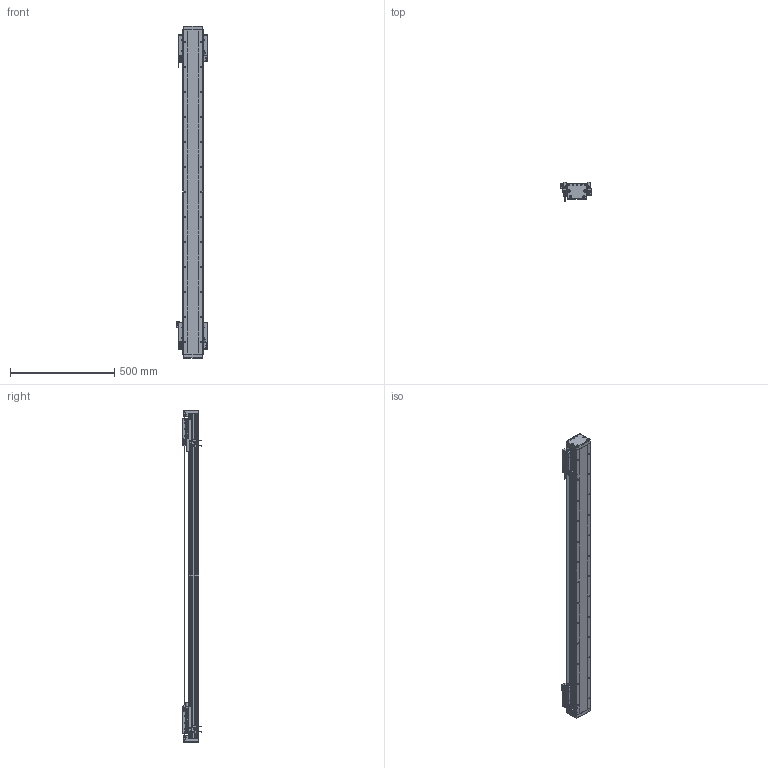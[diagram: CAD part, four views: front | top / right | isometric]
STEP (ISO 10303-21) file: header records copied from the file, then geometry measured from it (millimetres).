
FILE_DESCRIPTION (( 'STEP AP203' ), '1' );
FILE_NAME ('DA-B95-2-B15-T1220-C010-0.2 直线电机.STEP', '2023-05-06T06:29:58', ( '微软用户' ), ( '微软中国' ), 'SwSTEP 2.0', 'SolidWorks 2019', '' );
FILE_SCHEMA (( 'CONFIG_CONTROL_DESIGN' ));
Length unit declared in the file: millimetre
Products named in the file (34): 复件 DKW-HXJ-JY-00 缓冲橡胶^DA-A95-B15-T-C010-0.2-N 直线电机; 葩璃 PM-Y45^DA-A95-B15-T-C010-0.2-N 眻盄萇儂; 复件 复件 18252-0001-002-00 钢带垫块^DA-A95-B15-T-C010-0.2-N 直线电机; 葩璃 BKM015-W060-C1-TP-DA-0.2^DA-A95-B15-T-C010-0.2-N 眻盄萇儂; 葩璃 BKMA01-W060-TRL^DA-A95-B15-T-C010-0.2-N 眻盄萇儂; IU-BU95-L 菁釱絳寢; 复件 DA95-DB-00  挡板^66245-BU95-V 滚珠滑台; 66245-BU95-V 幗紩賑怢; IU-BU95-L-00 菁釱_L1560; 葩璃 DA95-B15-DP-A-00 菜えA^66245-BU95-V 幗紩賑怢; LMDK-2-R001-V5-L02-C1-F00，0.2M 读数头^DA-A95-B15-T-C010-0.2-N 直线电机_DMA-010-0.2; 复件 DKW-GYP-ZJ-00 中间光电感应片^DA-A95-B15-T-C010-0.2-N 直线电机; 复件 DA95-B15 钢带盖板^DA-A95-B15-T-C010-0.2-N 直线电机; 复件 DKW-KGZ-ZJ-00 中间光电开关支架^DA-A95-B15-T-C010-0.2-N 直线电机; 葩璃 DA95-GT-T-00^IU-BU95-L 菁釱絳寢_DA95; 复件 复件 18252-0001-004-00 钢带端盖^DA-A95-B15-T-C010-0.2-N 直线电机; 复件 六角薄螺母 M3^DA-A95-B15-T-C010-0.2-N 直线电机_GB_FASTENER_NUT_STNAB M3-C; B15 XD-U-02L ｴﾅﾕ､ｳﾟ^DA-A95-B15-T-C010-0.2-N ﾖｱﾏﾟｵ扈銈XD-U-02L; 复件 DA95-B15-YB-A-00 压板A^66245-BU95-V 滚珠滑台; 复件 DA95-B15-YB-B-00 压板B^66245-BU95-V 滚珠滑台; 复件 66245-BU95-HT-V-01 滑动台板^66245-BU95-V-00 一体化滑动台板; 复件 DA95-HK-GT-00 滑块钢轨^66245-BU95-V-00 一体化滑动台板; 复件 DA95-MFP-01 密封片^66245-BU95-V 滚珠滑台; DA95-HXJ-00 缓冲橡胶^DA-A95-B15-T-C010-0.2-N 直线电机; 66245-BU95-V-00 珨极趙賑雄怢啣; 复件 纯铜油杯 6x6mm^66245-BU95-V 滚珠滑台; PM-T45 光电开关^DA-A95-B15-T-C010-0.2-N 直线电机; 葩璃 DA95-B15-DP--B-00 菜えB^66245-BU95-V 幗紩賑怢; 复件 复件 18252-0001-003-00 钢带拉块^DA-A95-B15-T-C010-0.2-N 直线电机; DA-A95-GYP-00 光电感应片^DA-A95-B15-T-C010-0.2-N 直线电机; DA-B95-2-B15-T1220-C010-0.2 眻盄萇儂; 复件 DA95-DK-00 挡块^66245-BU95-V 滚珠滑台
Assembly tree (80 placements, depth 4):
  DA-B95-2-B15-T1220-C010-0.2 眻盄萇儂
    IU-BU95-L 菁釱絳寢
      IU-BU95-L-00 菁釱_L1560
      葩璃 DA95-GT-T-00^IU-BU95-L 菁釱絳寢_DA95  x2
    66245-BU95-V 幗紩賑怢
      66245-BU95-V-00 珨极趙賑雄怢啣
        复件 66245-BU95-HT-V-01 滑动台板^66245-BU95-V-00 一体化滑动台板
        复件 DA95-HK-GT-00 滑块钢轨^66245-BU95-V-00 一体化滑动台板  x2
      葩璃 DA95-B15-DP-A-00 菜えA^66245-BU95-V 幗紩賑怢
      复件 DA95-B15-YB-A-00 压板A^66245-BU95-V 滚珠滑台
      复件 DA95-B15-YB-B-00 压板B^66245-BU95-V 滚珠滑台
      复件 DA95-DB-00  挡板^66245-BU95-V 滚珠滑台  x4
      复件 DA95-DK-00 挡块^66245-BU95-V 滚珠滑台  x2
      复件 DA95-MFP-01 密封片^66245-BU95-V 滚珠滑台  x4
      复件 纯铜油杯 6x6mm^66245-BU95-V 滚珠滑台  x2
      葩璃 DA95-B15-DP--B-00 菜えB^66245-BU95-V 幗紩賑怢
    66245-BU95-V 幗紩賑怢
      66245-BU95-V-00 珨极趙賑雄怢啣
        复件 66245-BU95-HT-V-01 滑动台板^66245-BU95-V-00 一体化滑动台板
        复件 DA95-HK-GT-00 滑块钢轨^66245-BU95-V-00 一体化滑动台板  x2
      葩璃 DA95-B15-DP-A-00 菜えA^66245-BU95-V 幗紩賑怢
      复件 DA95-B15-YB-A-00 压板A^66245-BU95-V 滚珠滑台
      复件 DA95-B15-YB-B-00 压板B^66245-BU95-V 滚珠滑台
      复件 DA95-DB-00  挡板^66245-BU95-V 滚珠滑台  x4
      复件 DA95-DK-00 挡块^66245-BU95-V 滚珠滑台  x2
      复件 DA95-MFP-01 密封片^66245-BU95-V 滚珠滑台  x4
      复件 纯铜油杯 6x6mm^66245-BU95-V 滚珠滑台  x2
      葩璃 DA95-B15-DP--B-00 菜えB^66245-BU95-V 幗紩賑怢
    DA-A95-GYP-00 光电感应片^DA-A95-B15-T-C010-0.2-N 直线电机  x2
    LMDK-2-R001-V5-L02-C1-F00，0.2M 读数头^DA-A95-B15-T-C010-0.2-N 直线电机_DMA-010-0.2  x2
    复件 DKW-KGZ-ZJ-00 中间光电开关支架^DA-A95-B15-T-C010-0.2-N 直线电机
    葩璃 PM-Y45^DA-A95-B15-T-C010-0.2-N 眻盄萇儂
    复件 DKW-GYP-ZJ-00 中间光电感应片^DA-A95-B15-T-C010-0.2-N 直线电机
    葩璃 BKM015-W060-C1-TP-DA-0.2^DA-A95-B15-T-C010-0.2-N 眻盄萇儂  x2
    复件 DKW-HXJ-JY-00 缓冲橡胶^DA-A95-B15-T-C010-0.2-N 直线电机  x2
    PM-T45 光电开关^DA-A95-B15-T-C010-0.2-N 直线电机  x4
    B15 XD-U-02L ｴﾅﾕ､ｳﾟ^DA-A95-B15-T-C010-0.2-N ﾖｱﾏﾟｵ扈銈XD-U-02L
    复件 复件 18252-0001-003-00 钢带拉块^DA-A95-B15-T-C010-0.2-N 直线电机  x2
    复件 复件 18252-0001-002-00 钢带垫块^DA-A95-B15-T-C010-0.2-N 直线电机  x2
    复件 复件 18252-0001-004-00 钢带端盖^DA-A95-B15-T-C010-0.2-N 直线电机  x2
    复件 DA95-B15 钢带盖板^DA-A95-B15-T-C010-0.2-N 直线电机
    DA95-HXJ-00 缓冲橡胶^DA-A95-B15-T-C010-0.2-N 直线电机  x4
    葩璃 BKMA01-W060-TRL^DA-A95-B15-T-C010-0.2-N 眻盄萇儂
    复件 六角薄螺母 M3^DA-A95-B15-T-C010-0.2-N 直线电机_GB_FASTENER_NUT_STNAB M3-C  x6
Bounding box: 145.4 x 90.2 x 1596 mm (x, y, z)
Volume: 5669508.2 mm3; surface area: 1835690 mm2
Topology: 75 solids, 93 shells, 3788 faces, 10300 edges, 6479 vertices
Faces by surface type: cylinder 1837, plane 1419, cone 464, torus 64, sphere 4
Entity records: 81116 total; most frequent: CARTESIAN_POINT 19338, DIRECTION 11984, ORIENTED_EDGE 11958, EDGE_CURVE 5979, AXIS2_PLACEMENT_3D 4517, VERTEX_POINT 3881, LINE 2950, VECTOR 2950
